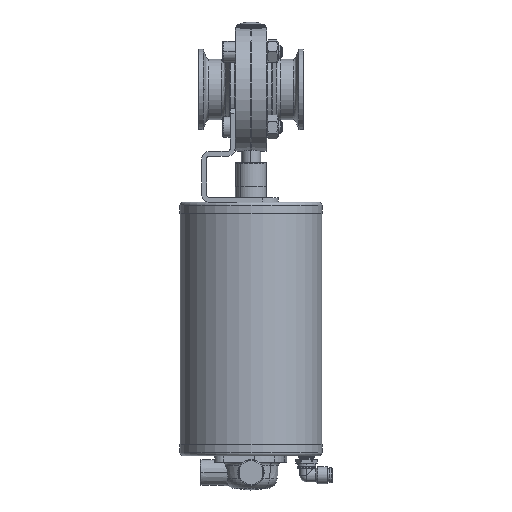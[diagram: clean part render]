
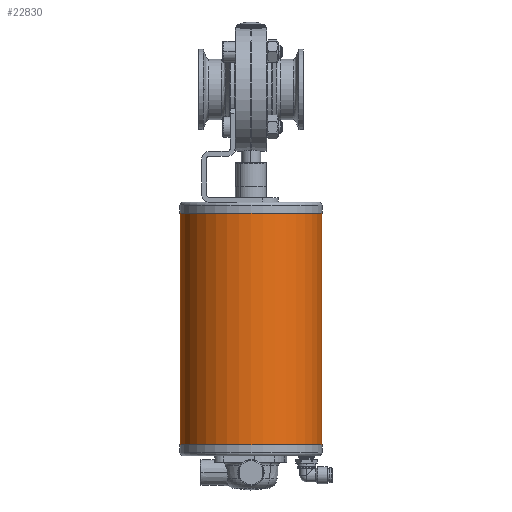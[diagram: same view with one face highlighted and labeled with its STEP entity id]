
A CAD part, left-side view. The second image highlights one B-rep face of the part: STEP entity #22830.
In plain terms, the highlighted cylindrical face has radius 44.45 mm (diameter 88.9 mm), a partial arc.
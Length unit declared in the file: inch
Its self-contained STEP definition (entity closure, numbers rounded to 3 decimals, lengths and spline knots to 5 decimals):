
#188 = DIRECTION ( 'NONE',  ( 0., -1., 0. ) ) ;
#498 = EDGE_CURVE ( 'NONE', #39788, #16890, #27414, .T. ) ;
#1122 = AXIS2_PLACEMENT_3D ( 'NONE', #29792, #43657, #12521 ) ;
#3542 = ORIENTED_EDGE ( 'NONE', *, *, #5936, .F. ) ;
#4133 = CARTESIAN_POINT ( 'NONE',  ( 0., 5.53346, 1.75 ) ) ;
#5936 = EDGE_CURVE ( 'NONE', #39788, #19957, #9540, .T. ) ;
#7143 = DIRECTION ( 'NONE',  ( 0., 0., 1. ) ) ;
#7826 = VERTEX_POINT ( 'NONE', #28124 ) ;
#9540 = LINE ( 'NONE', #20253, #35462 ) ;
#9865 = CIRCLE ( 'NONE', #1122, 1.75 ) ;
#10658 = FACE_OUTER_BOUND ( 'NONE', #31705, .T. ) ;
#11253 = VECTOR ( 'NONE', #188, 39.37008 ) ;
#12240 = CARTESIAN_POINT ( 'NONE',  ( 0., 5.53346, -1.75 ) ) ;
#12521 = DIRECTION ( 'NONE',  ( 0., 0., 1. ) ) ;
#14517 = DIRECTION ( 'NONE',  ( 0., 0., 1. ) ) ;
#16890 = VERTEX_POINT ( 'NONE', #12240 ) ;
#19829 = EDGE_CURVE ( 'NONE', #19957, #7826, #9865, .T. ) ;
#19957 = VERTEX_POINT ( 'NONE', #20938 ) ;
#20041 = DIRECTION ( 'NONE',  ( 0., -1., 0. ) ) ;
#20253 = CARTESIAN_POINT ( 'NONE',  ( 0., -0.07399, 1.75 ) ) ;
#20897 = CARTESIAN_POINT ( 'NONE',  ( 0., -0.07399, -1.75 ) ) ;
#20938 = CARTESIAN_POINT ( 'NONE',  ( 0., -0.19488, 1.75 ) ) ;
#21210 = ORIENTED_EDGE ( 'NONE', *, *, #498, .T. ) ;
#22830 = ADVANCED_FACE ( 'NONE', ( #10658 ), #24533, .T. ) ;
#24076 = LINE ( 'NONE', #20897, #11253 ) ;
#24431 = CARTESIAN_POINT ( 'NONE',  ( 0., 5.53346, 0. ) ) ;
#24533 = CYLINDRICAL_SURFACE ( 'NONE', #39933, 1.75 ) ;
#25237 = AXIS2_PLACEMENT_3D ( 'NONE', #24431, #38300, #7143 ) ;
#27414 = CIRCLE ( 'NONE', #25237, 1.75 ) ;
#28124 = CARTESIAN_POINT ( 'NONE',  ( 0., -0.19488, -1.75 ) ) ;
#29792 = CARTESIAN_POINT ( 'NONE',  ( 0., -0.19488, 0. ) ) ;
#31705 = EDGE_LOOP ( 'NONE', ( #21210, #36366, #39274, #3542 ) ) ;
#32015 = DIRECTION ( 'NONE',  ( 0., 1., 0. ) ) ;
#33389 = EDGE_CURVE ( 'NONE', #16890, #7826, #24076, .T. ) ;
#35462 = VECTOR ( 'NONE', #20041, 39.37008 ) ;
#36366 = ORIENTED_EDGE ( 'NONE', *, *, #33389, .T. ) ;
#38300 = DIRECTION ( 'NONE',  ( 0., -1., 0. ) ) ;
#38405 = CARTESIAN_POINT ( 'NONE',  ( 0., -0.07399, 0. ) ) ;
#39274 = ORIENTED_EDGE ( 'NONE', *, *, #19829, .F. ) ;
#39788 = VERTEX_POINT ( 'NONE', #4133 ) ;
#39933 = AXIS2_PLACEMENT_3D ( 'NONE', #38405, #32015, #14517 ) ;
#43657 = DIRECTION ( 'NONE',  ( 0., -1., 0. ) ) ;
